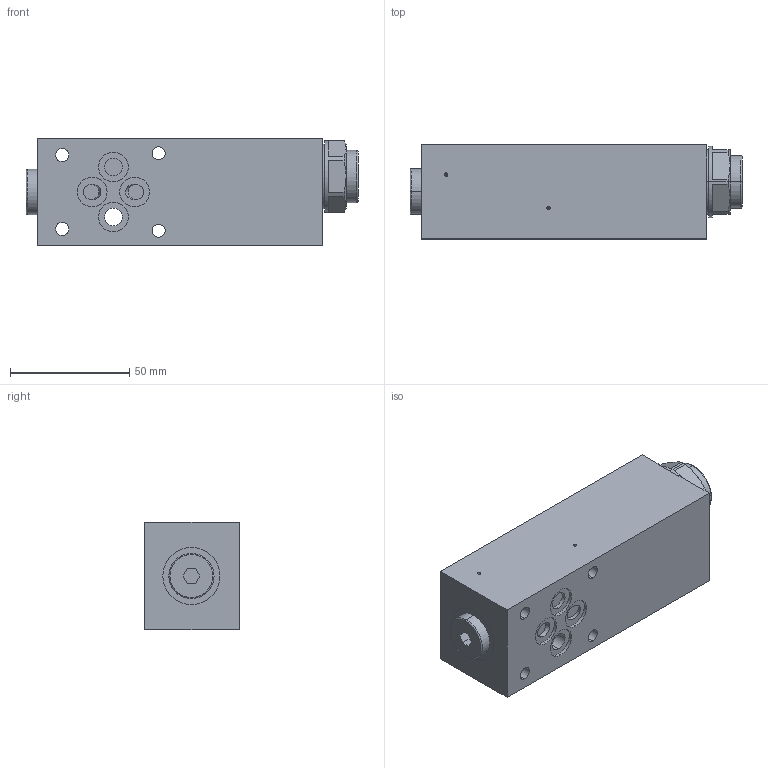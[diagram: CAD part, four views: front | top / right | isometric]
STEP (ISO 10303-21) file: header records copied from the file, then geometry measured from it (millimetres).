
FILE_DESCRIPTION (( 'STEP AP214' ), '1' );
FILE_NAME ('UZFSA06.STEP', '2017-04-13T12:29:34', ( '' ), ( '' ), 'SwSTEP 2.0', 'SolidWorks 2016', '' );
FILE_SCHEMA (( 'AUTOMOTIVE_DESIGN' ));
Length unit declared in the file: millimetre
Products named in the file (1): UZFSA06
Bounding box: 139.4 x 39.5 x 45 mm (x, y, z)
Volume: 214147.6 mm3; surface area: 32059.4 mm2
Topology: 5 solids, 11 shells, 230 faces, 524 edges, 329 vertices
Faces by surface type: cylinder 97, plane 70, cone 43, sphere 16, torus 4
Entity records: 8994 total; most frequent: CARTESIAN_POINT 1220, DIRECTION 1197, ORIENTED_EDGE 1024, EDGE_CURVE 512, AXIS2_PLACEMENT_3D 490, VERTEX_POINT 329, EDGE_LOOP 271, CIRCLE 259
